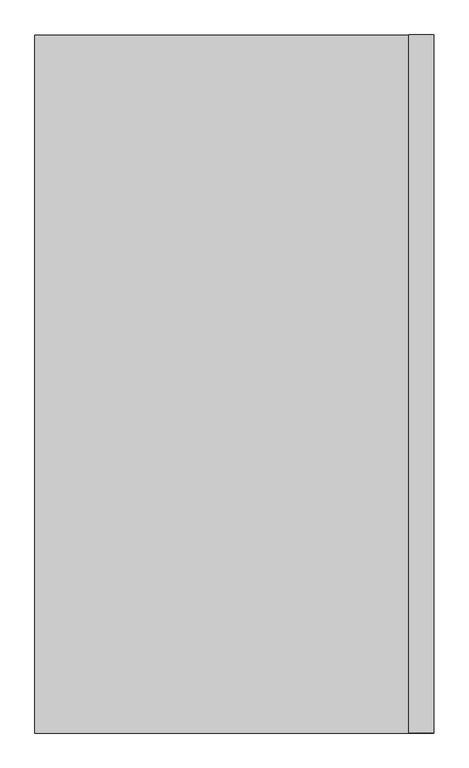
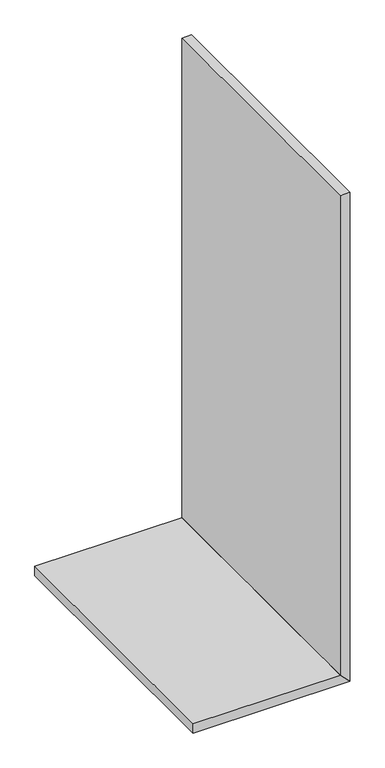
"""IFC4 building model written with IfcOpenShell, lengths in millimetres: proxy geometry, FOUNDATION^OPEN OFFICE 1_42x79x24 LEFT GALLERY WALL-PARTS SOLID."""

from ifc_helpers import new_model, si_unit, frame, origin, place, context, project, spatial, polyline, outline, extrude, source, transform, mapped, element, save


def generic_models_489af210(model_context):
    return source(origin(), model_context, "Body", "SweptSolid", [
        extrude(outline(polyline([(-2006.6, 38.1), (-1968.5, 0.0), (-1968.5, -571.5), (-2006.6, -571.5), (-2006.6, 38.1)])), frame((0.0, 0.0, 0.0), z_axis=(0.0, 1.0, 0.0), x_axis=(0.0, 0.0, 1.0)), (0.0, 0.0, 1.0), 1066.8),
        extrude(outline(polyline([(-1968.5, 0.0), (-2006.6, 38.1), (0.0, 38.1), (0.0, 0.0), (-1968.5, 0.0)])), frame((0.0, 0.0, 0.0), z_axis=(0.0, 1.0, 0.0), x_axis=(0.0, 0.0, 1.0)), (0.0, 0.0, 1.0), 1066.8),
    ])


if __name__ == "__main__":
    model = new_model("IFC4")
    model_context = context("Model", 3, world=origin())
    ifc_project = project(units=[si_unit("LENGTHUNIT", "METRE", prefix="MILLI")], contexts=[model_context])
    site = spatial("IfcSite", under=ifc_project)
    building = spatial("IfcBuilding", under=site)
    placement = place(None, origin())
    generic_models_shape = generic_models_489af210(model_context)
    element("IfcBuildingElementProxy", 1, Name="FOUNDATION^OPEN OFFICE 1_42x79x24 LEFT GALLERY WALL-PARTS SOLID", ObjectType="FOUNDATION^OPEN OFFICE 1_42x79x24 LEFT GALLERY WALL-PARTS SOLID", at=placement, inside=building, context=model_context, shape_type="MappedRepresentation", body=[
        mapped(generic_models_shape, transform((0.0, 0.0, 0.0), x_axis=(1.0, 0.0, 0.0), y_axis=(0.0, 1.0, 0.0), z_axis=(0.0, 0.0, 1.0))),
    ])
    save(model, "model.ifc")
